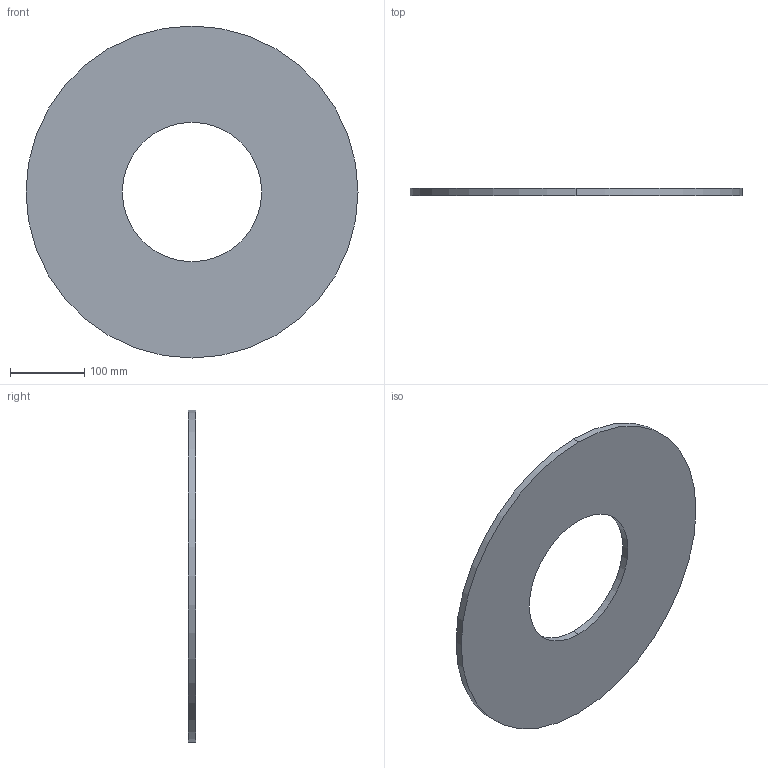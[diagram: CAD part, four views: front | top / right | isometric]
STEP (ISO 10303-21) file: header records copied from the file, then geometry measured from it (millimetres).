
FILE_DESCRIPTION (( 'STEP AP203' ), '1' );
FILE_NAME ('3D_R152_DN125_17305270.STEP', '2024-08-13T07:51:50', ( '' ), ( '' ), 'SwSTEP 2.0', 'SolidWorks 2024', '' );
FILE_SCHEMA (( 'CONFIG_CONTROL_DESIGN' ));
Length unit declared in the file: millimetre
Products named in the file (1): 3D_R152_DN125_17305270
Bounding box: 448 x 10 x 448 mm (x, y, z)
Volume: 1298734.4 mm3; surface area: 279727.4 mm2
Topology: 1 solids, 1 shells, 6 faces, 12 edges, 8 vertices
Faces by surface type: cylinder 4, plane 2
Entity records: 245 total; most frequent: DIRECTION 34, CARTESIAN_POINT 27, ORIENTED_EDGE 24, AXIS2_PLACEMENT_3D 15, EDGE_CURVE 12, CIRCLE 8, PERSON_AND_ORGANIZATION 8, VERTEX_POINT 8
